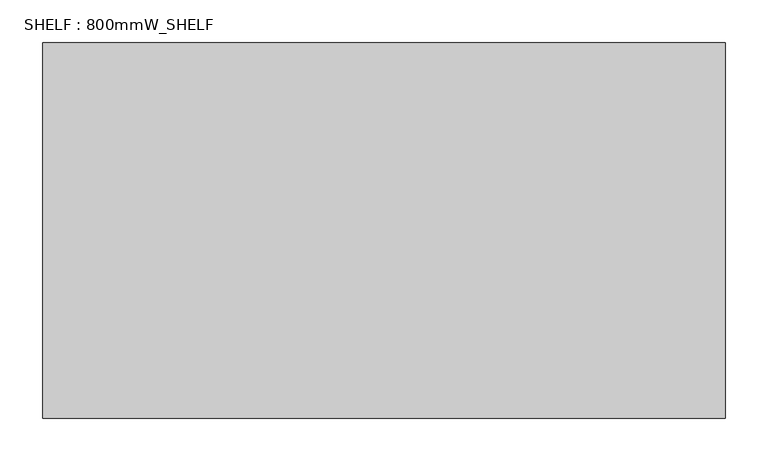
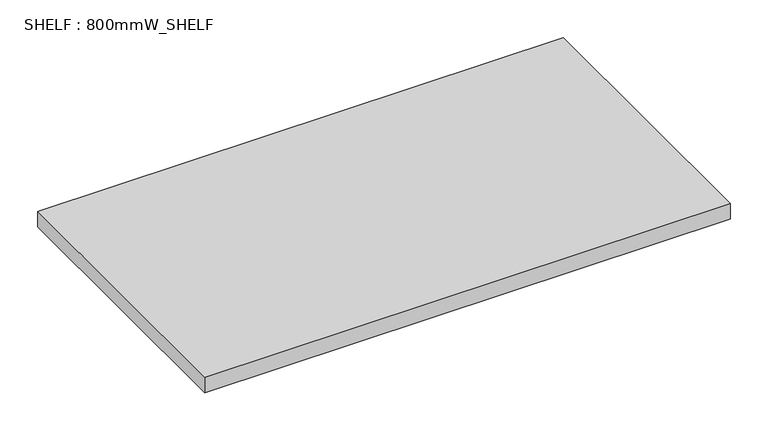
"""IFC4 building model written with IfcOpenShell, lengths in millimetres: furniture geometry, SHELF : 800mmW_SHELF."""

from ifc_helpers import new_model, si_unit, frame, origin, place, context, project, spatial, polyline, outline, extrude, source, transform, mapped, element, save


def shelf_800mmw_shelf_864b4ea1(model_context):
    return source(origin(), model_context, "Body", "SweptSolid", [
        extrude(outline(polyline([(400.0, 220.0), (400.0, -220.0), (-400.0, -220.0), (-400.0, 220.0), (400.0, 220.0)])), frame((0.0, 0.0, -7.0), z_axis=(0.0, 0.0, 1.0), x_axis=(1.0, 0.0, 0.0)), (0.0, 0.0, 1.0), 25.0),
    ])


if __name__ == "__main__":
    model = new_model("IFC4")
    model_context = context("Model", 3, world=origin())
    ifc_project = project(units=[si_unit("LENGTHUNIT", "METRE", prefix="MILLI")], contexts=[model_context])
    site = spatial("IfcSite", under=ifc_project)
    building = spatial("IfcBuilding", under=site)
    placement = place(None, origin())
    shelf_800mmw_shelf_shape = shelf_800mmw_shelf_864b4ea1(model_context)
    element("IfcFurniture", 1, ObjectType="SHELF : 800mmW_SHELF", at=placement, inside=building, context=model_context, shape_type="MappedRepresentation", body=[
        mapped(shelf_800mmw_shelf_shape, transform((0.0, 0.0, 0.0), x_axis=(1.0, 0.0, 0.0), y_axis=(0.0, 1.0, 0.0), z_axis=(0.0, 0.0, 1.0))),
    ])
    save(model, "model.ifc")
